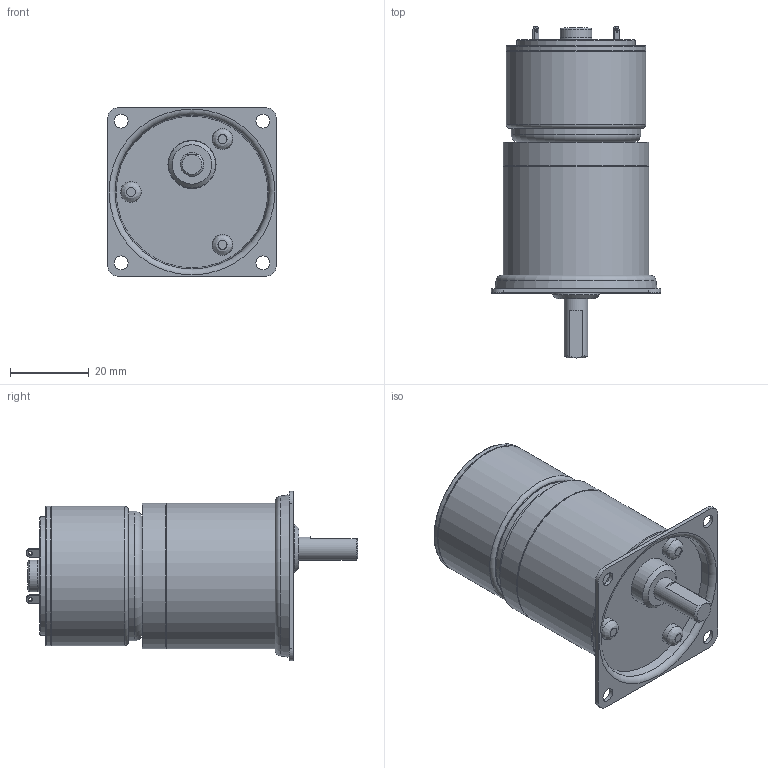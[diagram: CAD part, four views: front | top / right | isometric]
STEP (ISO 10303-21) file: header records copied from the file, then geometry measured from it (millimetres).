
FILE_DESCRIPTION((''),'2;1');
FILE_NAME('C:\Documents and Settings\SSEGAWA\デスクトップ\TP-3526E-PHM-6.STP','2013-07-09T16:32:30',('SSEGAWA'),(''),'Autodesk Inventor 2010','Autodesk Inventor 2010','');
FILE_SCHEMA(('CONFIG_CONTROL_DESIGN'));
Length unit declared in the file: millimetre
Products named in the file (5): tp_3526e_phm_6; phm_6; hm_6; □43; tp_3526e
Assembly tree (4 placements, depth 3):
  tp_3526e_phm_6
    phm_6
      hm_6
      □43
    tp_3526e
Bounding box: 43 x 84.3 x 43 mm (x, y, z)
Volume: 64294.6 mm3; surface area: 16113.4 mm2
Topology: 3 solids, 3 shells, 106 faces, 230 edges, 151 vertices
Faces by surface type: plane 39, cylinder 30, bspline 25, torus 7, cone 5
Full cylindrical faces by diameter (mm): 1.1 x1, 2 x1, 2.4 x1, 5 x1, 5.3 x3, 6 x1, 8 x1, 10 x1, 12 x1, 12.2 x1, 30 x1, 33 x1, 35 x1, 35.4 x2, 36.6 x1, 37 x2
Entity records: 3078 total; most frequent: CARTESIAN_POINT 983, DIRECTION 433, ORIENTED_EDGE 300, EDGE_LOOP 197, AXIS2_PLACEMENT_3D 195, EDGE_CURVE 150, VERTEX_POINT 127, FACE_OUTER_BOUND 106
